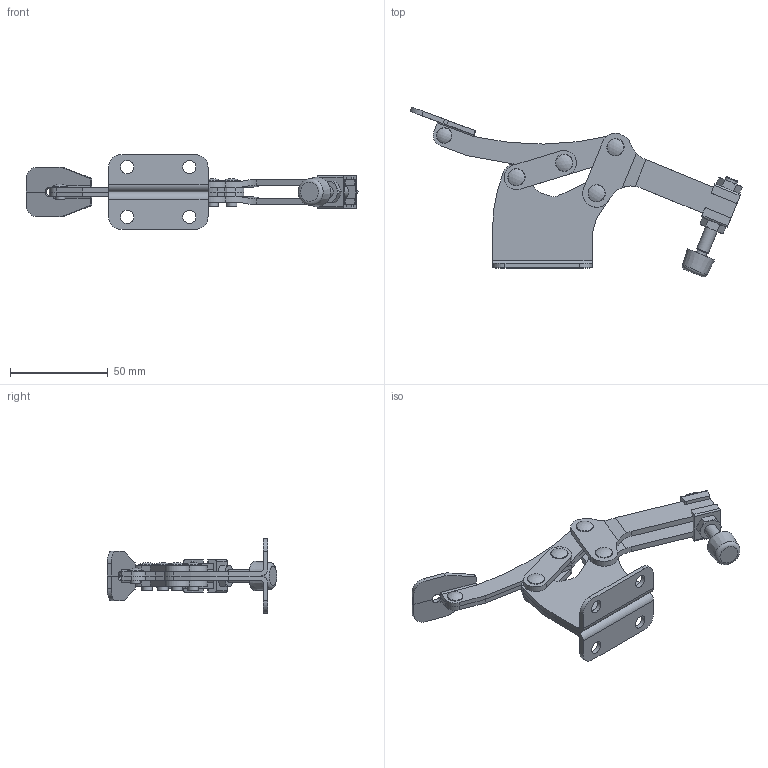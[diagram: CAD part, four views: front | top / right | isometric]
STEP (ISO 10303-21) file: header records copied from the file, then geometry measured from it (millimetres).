
FILE_DESCRIPTION(/* description */ (''),/* implementation_level */ '2;1');
FILE_NAME(/* name */ 'C:\Users\Nick\Desktop\H-400x20\3D\H-400x20.stp',/* time_stamp */ '2015-10-21T12:33:46-04:00',/* author */ ('Nick'),/* organization */ (''),/* preprocessor_version */ 'ST-DEVELOPER v16.1',/* originating_system */ 'AutoCAD Mechanical',/* authorisation */ '');
FILE_SCHEMA (('AUTOMOTIVE_DESIGN { 1 0 10303 214 3 1 1 }'));
Length unit declared in the file: inch
Products named in the file (2): 100039L; Product
Assembly tree (1 placements, depth 2):
  Product
    100039L
Bounding box: 169.49 x 86.71 x 38.1 mm (x, y, z)
Volume: 37566.4 mm3; surface area: 36489.3 mm2
Topology: 19 solids, 19 shells, 308 faces, 751 edges, 488 vertices
Faces by surface type: plane 133, cylinder 114, cone 35, torus 18, sphere 6, bspline 2
Full cylindrical faces by diameter (mm): 2.337 x2, 3.581 x1, 3.962 x4, 4.775 x1, 4.978 x2, 5.156 x1, 5.537 x4, 5.639 x4, 5.664 x12, 6.35 x1, 6.756 x6, 7.925 x1
Entity records: 8999 total; most frequent: CARTESIAN_POINT 1893, DIRECTION 1516, ORIENTED_EDGE 1332, EDGE_CURVE 666, AXIS2_PLACEMENT_3D 603, VERTEX_POINT 468, EDGE_LOOP 432, LINE 310
